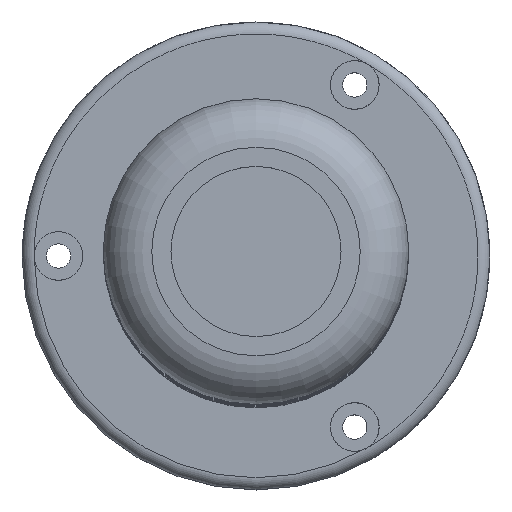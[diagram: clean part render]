
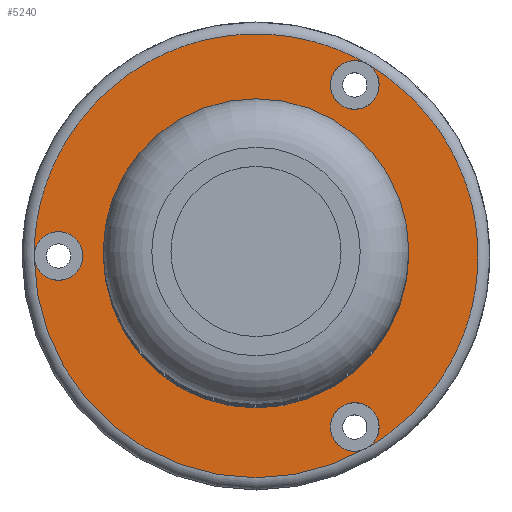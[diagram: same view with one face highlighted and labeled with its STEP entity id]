
A CAD part, top view. The second image highlights one B-rep face of the part: STEP entity #5240.
In plain terms, the highlighted planar face has unit normal (0, 0, -1).
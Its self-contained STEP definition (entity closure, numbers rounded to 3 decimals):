
#2117=PLANE('',#46032);
#3074=FACE_BOUND('',#10691,.T.);
#3075=FACE_BOUND('',#10692,.T.);
#3076=FACE_BOUND('',#10693,.T.);
#3077=FACE_BOUND('',#10694,.T.);
#3078=FACE_BOUND('',#10695,.T.);
#5240=ADVANCED_FACE('',(#3074,#3075,#3076,#3077,#3078),#2117,.T.);
#10691=EDGE_LOOP('',(#30896));
#10692=EDGE_LOOP('',(#30897));
#10693=EDGE_LOOP('',(#30898));
#10694=EDGE_LOOP('',(#30899));
#10695=EDGE_LOOP('',(#30900));
#30896=ORIENTED_EDGE('',*,*,#42420,.T.);
#30897=ORIENTED_EDGE('',*,*,#42421,.T.);
#30898=ORIENTED_EDGE('',*,*,#42422,.T.);
#30899=ORIENTED_EDGE('',*,*,#42423,.T.);
#30900=ORIENTED_EDGE('',*,*,#42410,.F.);
#36898=VERTEX_POINT('',#75125);
#36908=VERTEX_POINT('',#75279);
#36909=VERTEX_POINT('',#75281);
#36910=VERTEX_POINT('',#75283);
#36911=VERTEX_POINT('',#75285);
#42410=EDGE_CURVE('',#36898,#36898,#43964,.T.);
#42420=EDGE_CURVE('',#36908,#36908,#43972,.T.);
#42421=EDGE_CURVE('',#36909,#36909,#43973,.T.);
#42422=EDGE_CURVE('',#36910,#36910,#43974,.T.);
#42423=EDGE_CURVE('',#36911,#36911,#43975,.T.);
#43964=CIRCLE('',#46016,10.75);
#43972=CIRCLE('',#46028,2.);
#43973=CIRCLE('',#46029,2.);
#43974=CIRCLE('',#46030,2.);
#43975=CIRCLE('',#46031,38.);
#46016=AXIS2_PLACEMENT_3D('',#75124,#54200,#54201);
#46028=AXIS2_PLACEMENT_3D('',#75278,#54224,#54225);
#46029=AXIS2_PLACEMENT_3D('',#75280,#54226,#54227);
#46030=AXIS2_PLACEMENT_3D('',#75282,#54228,#54229);
#46031=AXIS2_PLACEMENT_3D('',#75284,#54230,#54231);
#46032=AXIS2_PLACEMENT_3D('',#75286,#54232,#54233);
#54200=DIRECTION('',(0.,0.,-1.));
#54201=DIRECTION('',(-1.,0.,0.));
#54224=DIRECTION('',(0.,0.,1.));
#54225=DIRECTION('',(1.,0.,0.));
#54226=DIRECTION('',(0.,0.,1.));
#54227=DIRECTION('',(1.,0.,0.));
#54228=DIRECTION('',(0.,0.,1.));
#54229=DIRECTION('',(1.,0.,0.));
#54230=DIRECTION('',(0.,0.,-1.));
#54231=DIRECTION('',(-1.,0.,0.));
#54232=DIRECTION('',(0.,0.,-1.));
#54233=DIRECTION('',(1.,0.,0.));
#75124=CARTESIAN_POINT('',(400.,-200.,-167.702));
#75125=CARTESIAN_POINT('',(389.25,-200.,-167.702));
#75278=CARTESIAN_POINT('',(416.25,-171.854,-167.702));
#75279=CARTESIAN_POINT('',(418.25,-171.854,-167.702));
#75280=CARTESIAN_POINT('',(416.25,-228.146,-167.702));
#75281=CARTESIAN_POINT('',(418.25,-228.146,-167.702));
#75282=CARTESIAN_POINT('',(367.5,-200.,-167.702));
#75283=CARTESIAN_POINT('',(369.5,-200.,-167.702));
#75284=CARTESIAN_POINT('',(400.,-200.,-167.702));
#75285=CARTESIAN_POINT('',(362.,-200.,-167.702));
#75286=CARTESIAN_POINT('',(400.,-200.,-167.702));
